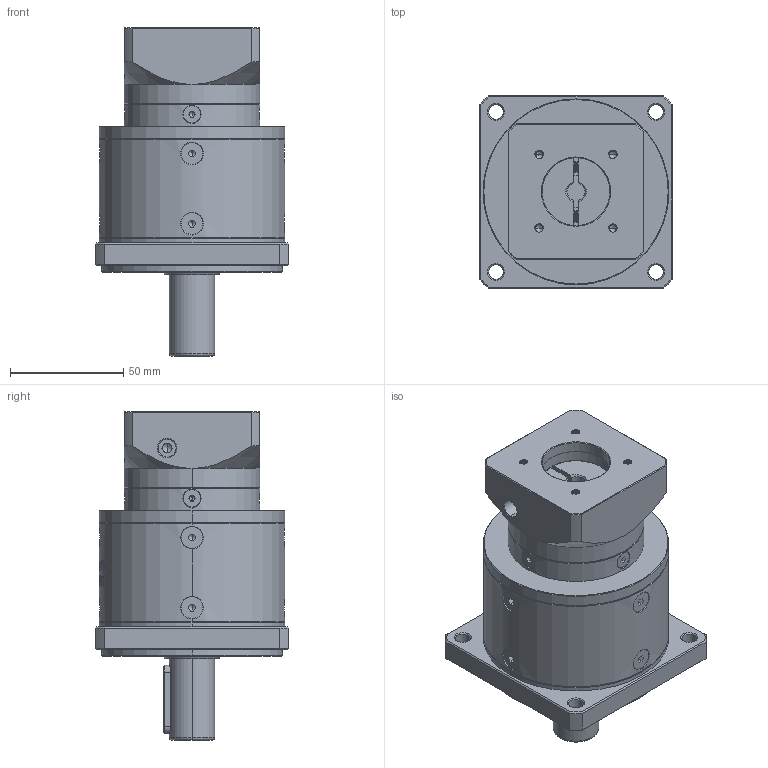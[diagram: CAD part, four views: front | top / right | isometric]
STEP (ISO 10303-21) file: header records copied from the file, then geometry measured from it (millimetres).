
FILE_DESCRIPTION (( 'STEP AP214' ), '1' );
FILE_NAME ('ZF080-D20-L2-P2-8-30-46-M4.step', '2023-08-19T06:53:37', ( '' ), ( '' ), 'SwSTEP 2.0', 'SolidWorks 2016', '' );
FILE_SCHEMA (( 'AUTOMOTIVE_DESIGN' ));
Length unit declared in the file: millimetre
Products named in the file (1): ZF080-D20-L2-P2-8-30-46-M4
Bounding box: 85 x 85 x 145 mm (x, y, z)
Volume: 476758.4 mm3; surface area: 68161.7 mm2
Topology: 18 solids, 18 shells, 2254 faces, 5938 edges, 3785 vertices
Faces by surface type: plane 1123, bspline 394, cylinder 375, cone 320, torus 42
Entity records: 116535 total; most frequent: CARTESIAN_POINT 40864, ORIENTED_EDGE 11800, DIRECTION 8874, EDGE_CURVE 5900, VERTEX_POINT 3785, VECTOR 3128, LINE 3128, AXIS2_PLACEMENT_3D 2873
